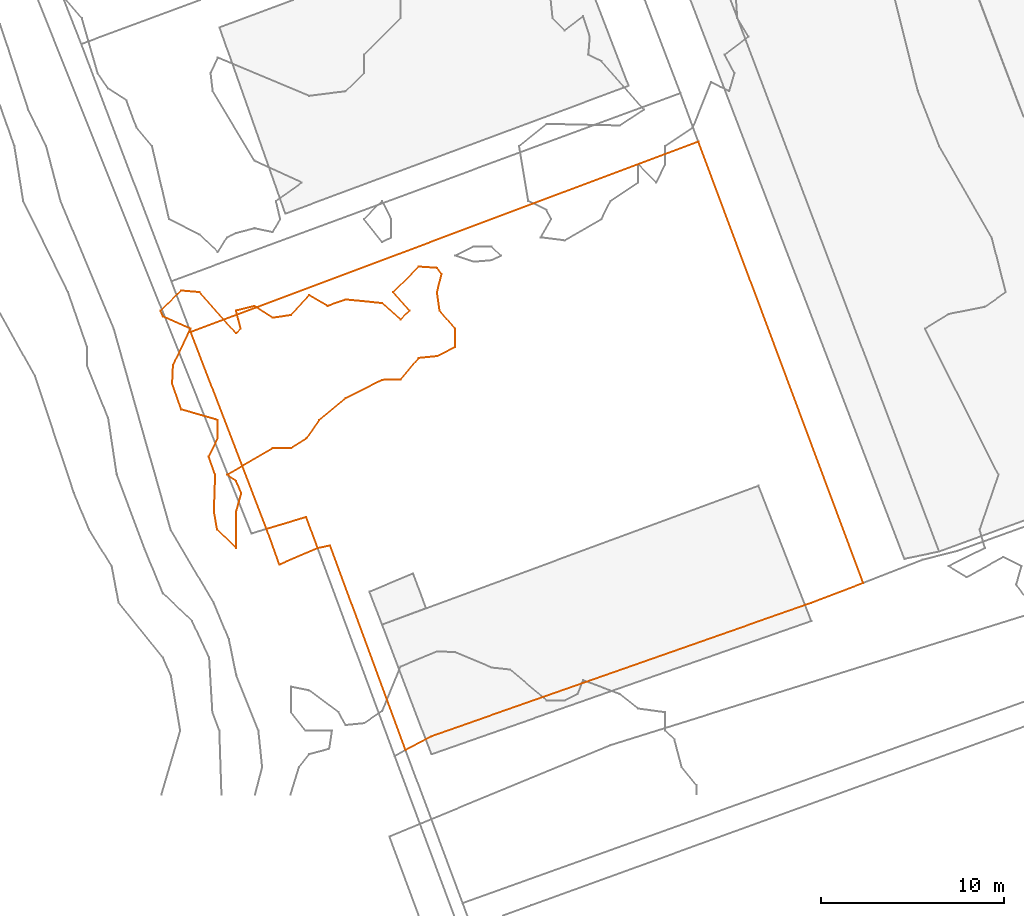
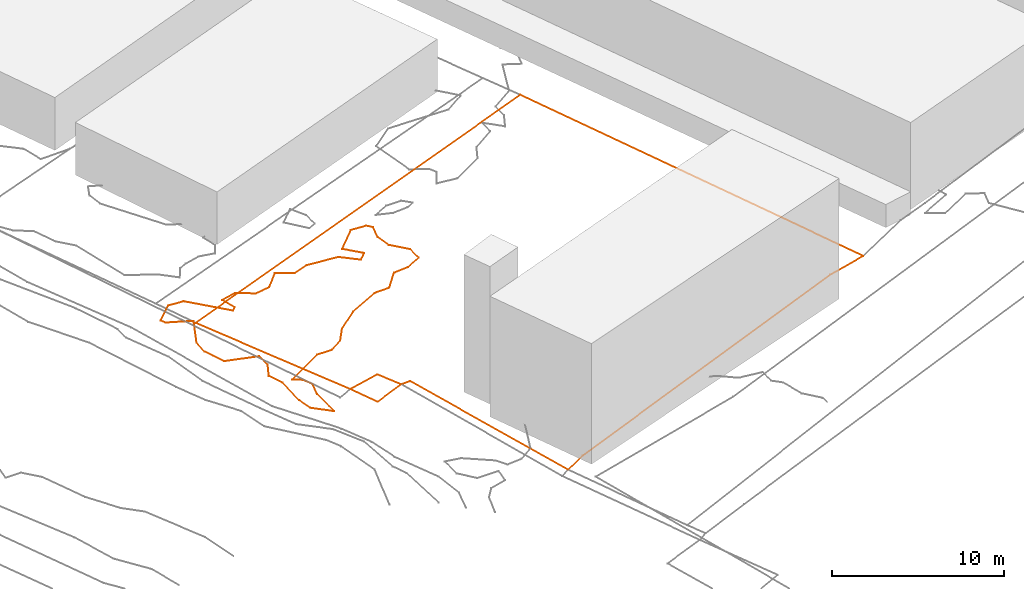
# Not in any storey, part 158 of 419: 3 proxies.
"""IFC2X3 model written with IfcOpenShell, lengths in metres."""

from ifc_helpers import new_model, entity, si_unit, frame, origin_with_axes, place, context, subcontext, project, element, save


model = new_model("IFC2X3")

# Units and contexts
model_context = context("Model", 3, precision=1e-05, world=origin_with_axes())
body_context = subcontext(model_context, "Body", "Model", "MODEL_VIEW")
ifc_project = project(units=[si_unit("AREAUNIT", "SQUARE_METRE"), si_unit("LENGTHUNIT", "METRE")], contexts=[model_context])

# Proxies
proxy_1_placement = place(None, frame((350.7620204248, 12.9376909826, 20.3522019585), z_axis=(0.0, 0.0, 1.0), x_axis=(1.0, 0.0, 0.0)))
element("IfcBuildingElementProxy", 1, at=proxy_1_placement, Name="Cadastre 364", ObjectType="NOTDEFINED", context=body_context, shape_type="GeometricCurveSet", body=[
    entity("IfcGeometricCurveSet", [entity("IfcPolyline", [entity("IfcCartesianPoint", [2.7999999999, -1.0499999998, 0.0001042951]), entity("IfcCartesianPoint", [0.7, -1.9500000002, 0.0368977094]), entity("IfcCartesianPoint", [0.0, 0.0, 0.0]), entity("IfcCartesianPoint", [2.1699999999, 0.6500000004, -0.1136343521]), entity("IfcCartesianPoint", [2.7999999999, -1.0499999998, 0.0001042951])])]),
])
proxy_2_placement = place(None, frame((346.6120204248, 23.7176909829, 19.9594643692), z_axis=(0.0, 0.0, 1.0), x_axis=(1.0, 0.0, 0.0)))
element("IfcBuildingElementProxy", 2, at=proxy_2_placement, Name="Cadastre 368", ObjectType="NOTDEFINED", context=body_context, shape_type="GeometricCurveSet", body=[
    entity("IfcGeometricCurveSet", [entity("IfcPolyline", [entity("IfcCartesianPoint", [36.8199999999, -13.7400000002, 0.1848000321]), entity("IfcCartesianPoint", [33.97, -14.8300000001, 0.5051827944]), entity("IfcCartesianPoint", [13.15, -22.1400000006, -0.585651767]), entity("IfcCartesianPoint", [11.76, -22.8799999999, -0.6457041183]), entity("IfcCartesianPoint", [7.63, -11.6900000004, 0.2942752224]), entity("IfcCartesianPoint", [6.95, -11.8300000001, 0.3928418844]), entity("IfcCartesianPoint", [6.3199999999, -10.1299999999, 0.2791032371]), entity("IfcCartesianPoint", [4.15, -10.7800000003, 0.3927375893]), entity("IfcCartesianPoint", [0.0, 0.0, 0.0]), entity("IfcCartesianPoint", [27.79, 10.4299999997, 0.1020851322]), entity("IfcCartesianPoint", [36.8199999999, -13.7400000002, 0.1848000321])])]),
])
proxy_3_placement = place(None, frame((344.9491613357, 24.8976909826, 20.0), z_axis=(0.0, 0.0, 1.0), x_axis=(1.0, 0.0, 0.0)))
element("IfcBuildingElementProxy", 3, at=proxy_3_placement, Name="Contour 20.0 m", ObjectType="NOTDEFINED", context=body_context, shape_type="GeometricCurveSet", body=[
    entity("IfcGeometricCurveSet", [entity("IfcPolyline", [entity("IfcCartesianPoint", [4.1428590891, -12.9999500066, 0.0]), entity("IfcCartesianPoint", [4.1428257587, -11.0, 0.0]), entity("IfcCartesianPoint", [4.4285811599, -10.0, 0.0]), entity("IfcCartesianPoint", [4.1428590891, -9.333333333, 0.0]), entity("IfcCartesianPoint", [3.6428090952, -9.0, 0.0]), entity("IfcCartesianPoint", [6.1428590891, -7.5454561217, 0.0]), entity("IfcCartesianPoint", [7.1428590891, -7.5454561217, 0.0]), entity("IfcCartesianPoint", [7.9999980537, -7.0, 0.0]), entity("IfcCartesianPoint", [8.6984052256, -6.0, 0.0]), entity("IfcCartesianPoint", [10.1428590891, -4.7999999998, 0.0]), entity("IfcCartesianPoint", [12.1428590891, -3.7999999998, 0.0]), entity("IfcCartesianPoint", [13.1428590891, -3.7777730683, 0.0]), entity("IfcCartesianPoint", [14.1428590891, -2.5999999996, 0.0]), entity("IfcCartesianPoint", [15.1428590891, -2.499983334, 0.0]), entity("IfcCartesianPoint", [16.1428257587, -2.0, 0.0]), entity("IfcCartesianPoint", [16.1428257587, -1.0, 0.0]), entity("IfcCartesianPoint", [15.2857201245, 0.0, 0.0]), entity("IfcCartesianPoint", [15.1427591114, 1.0, 0.0]), entity("IfcCartesianPoint", [15.3928590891, 2.0, 0.0]), entity("IfcCartesianPoint", [15.1428590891, 2.333333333, 0.0]), entity("IfcCartesianPoint", [14.1428590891, 2.4000000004, 0.0]), entity("IfcCartesianPoint", [12.742859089, 1.0, 0.0]), entity("IfcCartesianPoint", [13.6429090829, 0.0, 0.0]), entity("IfcCartesianPoint", [13.1428590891, -0.5000499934, 0.0]), entity("IfcCartesianPoint", [12.1428590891, 0.4000000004, 0.0]), entity("IfcCartesianPoint", [10.1428590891, 0.5999999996, 0.0]), entity("IfcCartesianPoint", [9.1428590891, 0.2500059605, 0.0]), entity("IfcCartesianPoint", [8.1428590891, 0.8333280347, 0.0]), entity("IfcCartesianPoint", [7.1428590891, -0.25, 0.0]), entity("IfcCartesianPoint", [6.1428590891, -0.4000000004, 0.0]), entity("IfcCartesianPoint", [5.1428590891, 0.250003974, 0.0]), entity("IfcCartesianPoint", [4.1428924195, 0.0, 0.0]), entity("IfcCartesianPoint", [4.3928590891, -1.0, 0.0]), entity("IfcCartesianPoint", [4.1428590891, -1.25, 0.0]), entity("IfcCartesianPoint", [2.1428590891, 0.9999857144, 0.0]), entity("IfcCartesianPoint", [1.1428590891, 1.0909106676, 0.0]), entity("IfcCartesianPoint", [0.0, 0.0, 0.0]), entity("IfcCartesianPoint", [0.1428590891, -0.333333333, 0.0]), entity("IfcCartesianPoint", [1.6428840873, -1.0, 0.0]), entity("IfcCartesianPoint", [0.6883152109, -3.0, 0.0]), entity("IfcCartesianPoint", [0.642864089, -4.0, 0.0]), entity("IfcCartesianPoint", [1.1428590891, -5.4166640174, 0.0]), entity("IfcCartesianPoint", [3.1428924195, -6.0, 0.0]), entity("IfcCartesianPoint", [3.1428840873, -7.0, 0.0]), entity("IfcCartesianPoint", [2.6429090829, -8.0, 0.0]), entity("IfcCartesianPoint", [2.9999980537, -9.0, 0.0]), entity("IfcCartesianPoint", [2.9285704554, -11.0, 0.0]), entity("IfcCartesianPoint", [3.1043967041, -12.0, 0.0]), entity("IfcCartesianPoint", [4.1428590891, -12.9999500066, 0.0])])]),
])

save(model, "model.ifc")
